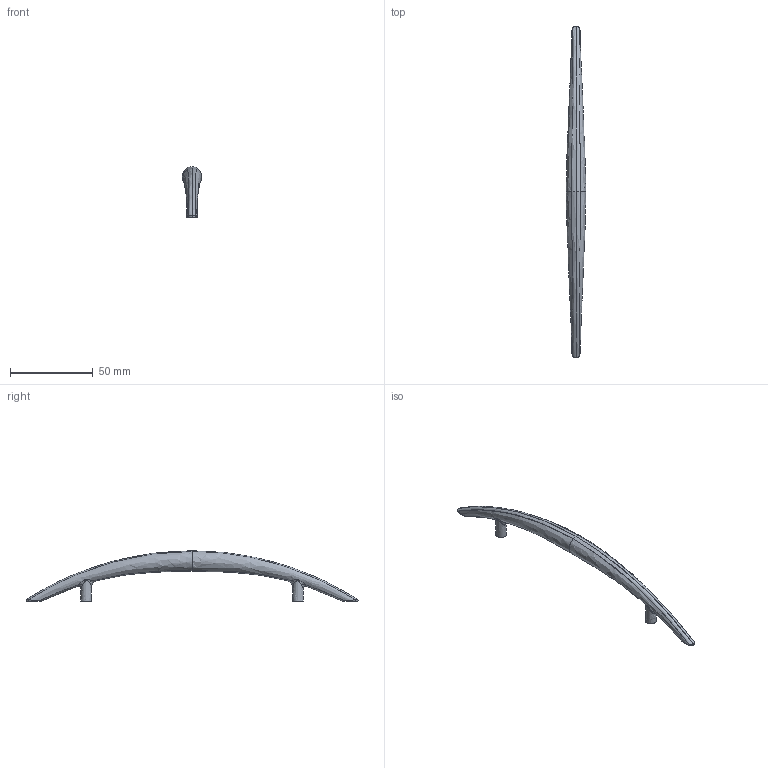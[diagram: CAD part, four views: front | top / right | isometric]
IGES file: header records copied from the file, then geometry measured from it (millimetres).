
Start section: C
Global section: file name: 0074-201.igs; native system: By Siemens PLM Incorporated; preprocessor: XPlus GENERIC/IGES 16.0.42; author: Author; organization: Title; date: 20260104.155833; units: millimetre
Bounding box: 11.79 x 200.59 x 30.5 mm (x, y, z)
Surface area: 6505.1 mm2 (no closed solid volume)
Topology: 0 solids, 0 shells, 64 faces, 334 edges, 334 vertices
Faces by surface type: bspline 64
